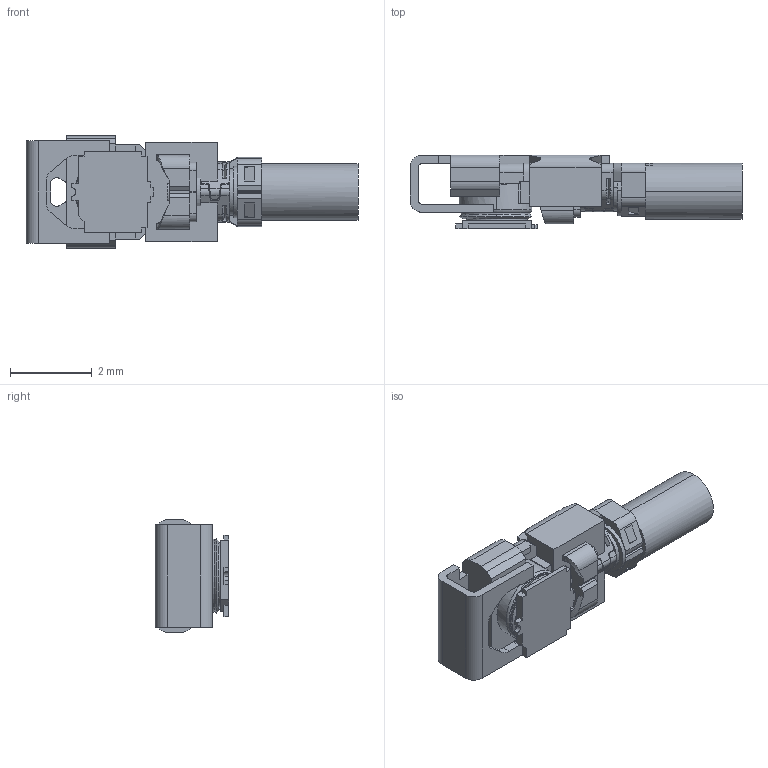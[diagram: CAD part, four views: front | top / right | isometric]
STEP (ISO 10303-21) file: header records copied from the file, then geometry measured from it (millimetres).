
FILE_DESCRIPTION (( 'STEP AP203' ), '1' );
FILE_NAME ('20632-001R-37+3615-000x+20449-001E-xxC MATING (UNLOCK) STEP R1R4R5 ALL.STEP', '2023-11-08T05:14:45', ( '' ), ( '' ), 'SwSTEP 2.0', 'SolidWorks 2023', '' );
FILE_SCHEMA (( 'CONFIG_CONTROL_DESIGN' ));
Length unit declared in the file: millimetre
Products named in the file (1): 20632-001R-37+3615-000x+20449-001E-xxC MATING (UNLOCK) STEP R1R4R5 ALL
Bounding box: 8.12 x 1.8 x 2.75 mm (x, y, z)
Volume: 19 mm3; surface area: 77.9 mm2
Topology: 1 solids, 1 shells, 349 faces, 1003 edges, 655 vertices
Faces by surface type: plane 230, cylinder 96, cone 13, bspline 6, torus 4
Entity records: 11990 total; most frequent: CARTESIAN_POINT 2842, ORIENTED_EDGE 2006, DIRECTION 1786, EDGE_CURVE 1003, LINE 710, VECTOR 710, VERTEX_POINT 655, AXIS2_PLACEMENT_3D 538
